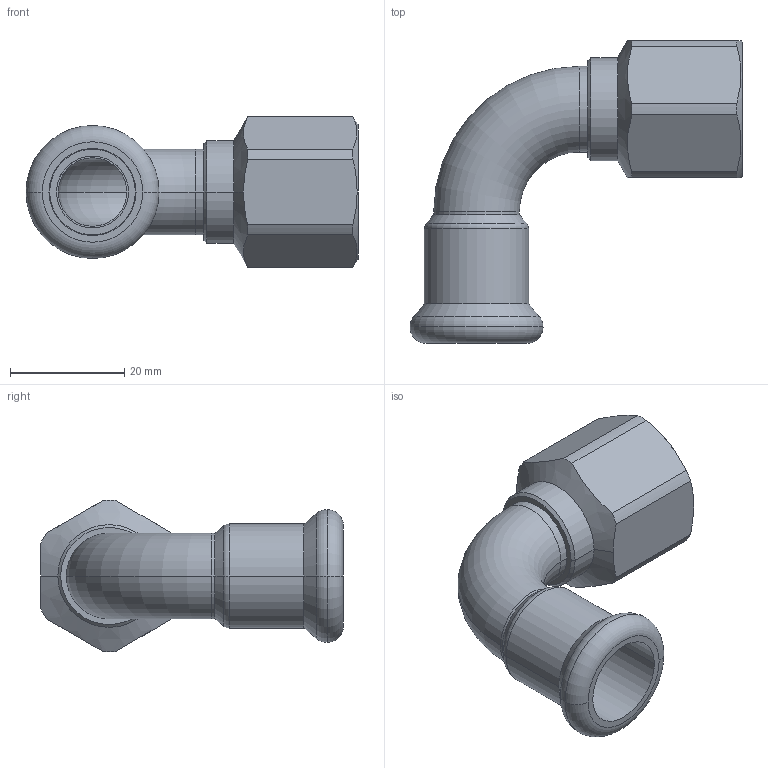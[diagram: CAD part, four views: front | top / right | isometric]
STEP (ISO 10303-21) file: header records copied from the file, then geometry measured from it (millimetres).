
FILE_DESCRIPTION(('CoCreate Modeling STEP Export'),'2;1');
FILE_NAME('C1438 15xRp1-2.stp','2014-11-12T16:34:07',(''),(''),'CoCreate Modeling STEP processor for AP214 (Solid Model)','CoCreate Modeling 17.00A 17-Jun-2010 (C) Parametric Technology GmbH','');
FILE_SCHEMA(('AUTOMOTIVE_DESIGN { 1 0 10303 214 1 1 1 1 }'));
Length unit declared in the file: millimetre
Products named in the file (2): C1438_15xRp1-2
Assembly tree (1 placements, depth 2):
  C1438_15xRp1-2
    C1438_15xRp1-2
Bounding box: 58.15 x 53 x 26.59 mm (x, y, z)
Volume: 10079.3 mm3; surface area: 9272.9 mm2
Topology: 1 solids, 1 shells, 65 faces, 145 edges, 87 vertices
Faces by surface type: cylinder 28, cone 14, plane 13, torus 10
Entity records: 2340 total; most frequent: CARTESIAN_POINT 1066, ORIENTED_EDGE 290, DIRECTION 210, EDGE_CURVE 145, VERTEX_POINT 87, AXIS2_PLACEMENT_3D 81, EDGE_LOOP 72, FACE_OUTER_BOUND 65
